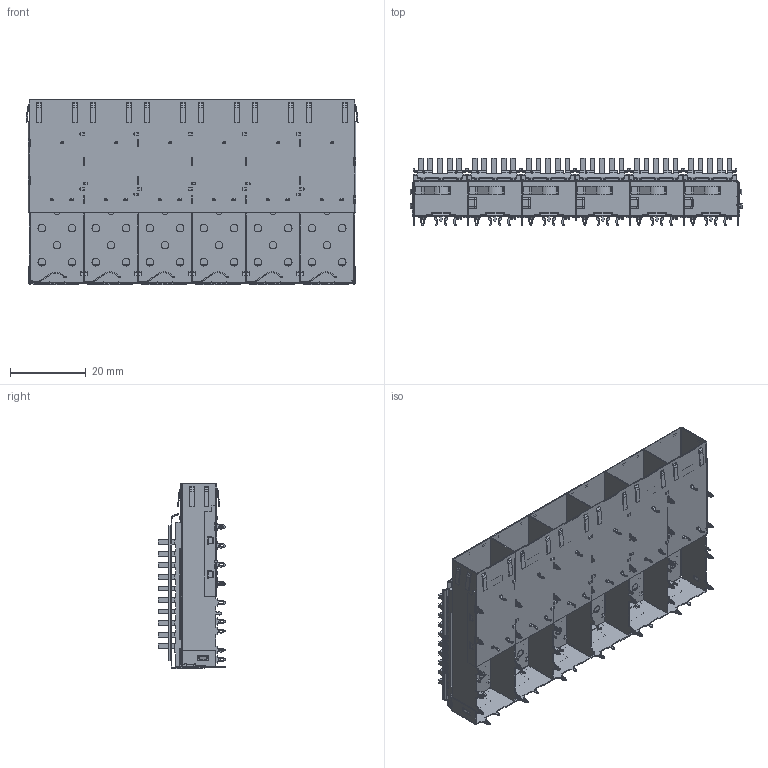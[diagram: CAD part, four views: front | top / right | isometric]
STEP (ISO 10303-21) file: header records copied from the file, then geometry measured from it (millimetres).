
FILE_DESCRIPTION(/* description */ (''),/* implementation_level */ '2;1');
FILE_NAME(/* name */ 'SFP 1X6 有月牙 散热器15.7 3D.stp',/* time_stamp */ '2026-08-29T11:10:27+08:00',/* author */ (''),/* organization */ (''),/* preprocessor_version */ 'ST-DEVELOPER v16.7',/* originating_system */ 'SIEMENS PLM Software NX 1847',/* authorisation */ '');
FILE_SCHEMA (('AUTOMOTIVE_DESIGN { 1 0 10303 214 3 1 1 1 }'));
Products named in the file (1): Admi29F470BBidjt
Bounding box: 87.56 x 17.75 x 48.95 mm (x, y, z)
Volume: 9770 mm3; surface area: 35032.7 mm2
Topology: 1 solids, 1 shells, 6075 faces, 17133 edges, 11085 vertices
Faces by surface type: plane 4099, cylinder 1896, bspline 68, torus 10, cone 2
Entity records: 196300 total; most frequent: CARTESIAN_POINT 35939, ORIENTED_EDGE 34266, DIRECTION 32856, EDGE_CURVE 17133, LINE 13004, VECTOR 13004, VERTEX_POINT 11085, AXIS2_PLACEMENT_3D 9926
